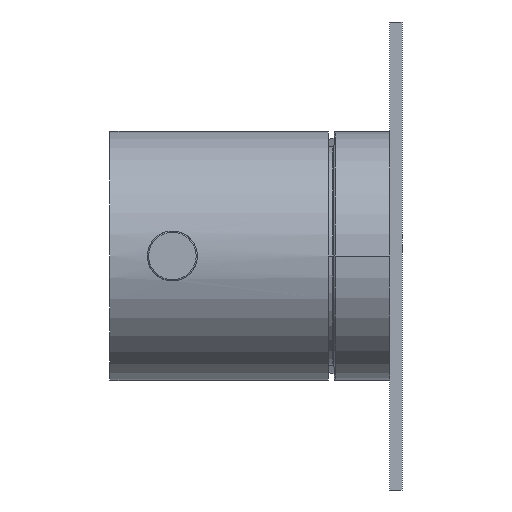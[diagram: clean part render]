
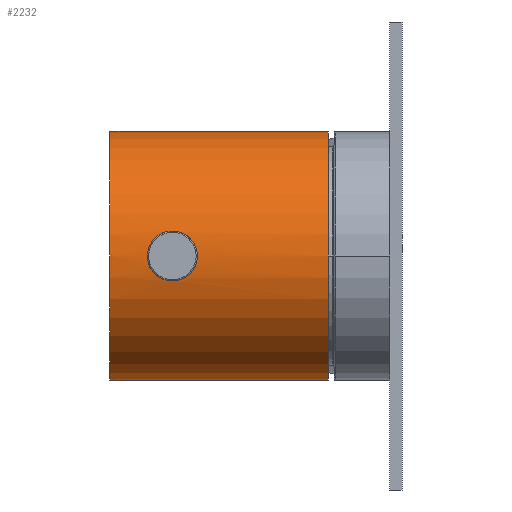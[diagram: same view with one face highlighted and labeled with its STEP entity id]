
A CAD part, left-side view. The second image highlights one B-rep face of the part: STEP entity #2232.
In plain terms, the highlighted cylindrical face has radius 20 mm (diameter 40 mm), a partial arc.
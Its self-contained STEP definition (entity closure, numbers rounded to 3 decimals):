
#1463=CARTESIAN_POINT('',(-129.93,28.433,1.674));
#1464=CARTESIAN_POINT('',(-129.921,28.386,1.776));
#1465=CARTESIAN_POINT('',(-129.903,28.282,1.978));
#1466=CARTESIAN_POINT('',(-129.872,28.101,2.268));
#1467=CARTESIAN_POINT('',(-129.839,27.895,2.541));
#1468=CARTESIAN_POINT('',(-129.804,27.667,2.797));
#1469=CARTESIAN_POINT('',(-129.769,27.418,3.031));
#1470=CARTESIAN_POINT('',(-129.736,27.149,3.244));
#1471=CARTESIAN_POINT('',(-129.704,26.864,3.432));
#1472=CARTESIAN_POINT('',(-129.674,26.565,3.595));
#1473=CARTESIAN_POINT('',(-129.649,26.253,3.732));
#1474=CARTESIAN_POINT('',(-129.628,25.933,3.841));
#1475=CARTESIAN_POINT('',(-129.612,25.605,3.923));
#1476=CARTESIAN_POINT('',(-129.601,25.272,3.977));
#1477=CARTESIAN_POINT('',(-129.595,24.936,4.002));
#1478=CARTESIAN_POINT('',(-129.596,24.6,4.));
#1479=CARTESIAN_POINT('',(-129.602,24.264,3.969));
#1480=CARTESIAN_POINT('',(-129.614,23.932,3.909));
#1481=CARTESIAN_POINT('',(-129.631,23.605,3.822));
#1482=CARTESIAN_POINT('',(-129.654,23.286,3.707));
#1483=CARTESIAN_POINT('',(-129.68,22.977,3.566));
#1484=CARTESIAN_POINT('',(-129.71,22.68,3.398));
#1485=CARTESIAN_POINT('',(-129.742,22.398,3.205));
#1486=CARTESIAN_POINT('',(-129.776,22.133,2.988));
#1487=CARTESIAN_POINT('',(-129.811,21.887,2.749));
#1488=CARTESIAN_POINT('',(-129.845,21.664,2.49));
#1489=CARTESIAN_POINT('',(-129.878,21.462,2.213));
#1490=CARTESIAN_POINT('',(-129.908,21.286,1.922));
#1491=CARTESIAN_POINT('',(-129.935,21.136,1.616));
#1492=CARTESIAN_POINT('',(-129.959,21.012,1.301));
#1493=CARTESIAN_POINT('',(-129.977,20.916,
0.975));
#1494=CARTESIAN_POINT('',(-129.991,20.847,
0.641));
#1495=CARTESIAN_POINT('',(-129.999,20.807,
0.304));
#1496=CARTESIAN_POINT('',(-130.001,20.795,
-0.033));
#1497=CARTESIAN_POINT('',(-129.998,20.812,
-0.369));
#1498=CARTESIAN_POINT('',(-129.989,20.858,
-0.705));
#1499=CARTESIAN_POINT('',(-129.974,20.932,
-1.037));
#1500=CARTESIAN_POINT('',(-129.954,21.034,
-1.362));
#1501=CARTESIAN_POINT('',(-129.938,21.12,
-1.571));
#1502=CARTESIAN_POINT('',(-129.93,21.167,
-1.674));
#1513=DIRECTION('',(0.,1.,0.));
#1514=VECTOR('',#1513,35.);
#1515=CARTESIAN_POINT('',(-110.,-0.2,-20.));
#1516=LINE('',#1515,#1514);
#1522=CARTESIAN_POINT('',(-110.,-0.2,0.));
#1523=DIRECTION('',(0.,1.,0.));
#1524=DIRECTION('',(0.,0.,-1.));
#1525=AXIS2_PLACEMENT_3D('',#1522,#1523,#1524);
#1527=DIRECTION('',(0.,1.,0.));
#1528=VECTOR('',#1527,35.);
#1529=CARTESIAN_POINT('',(-110.,-0.2,20.));
#1530=LINE('',#1529,#1528);
#1536=CARTESIAN_POINT('',(-110.,34.8,0.));
#1537=DIRECTION('',(0.,1.,0.));
#1538=DIRECTION('',(0.,0.,-1.));
#1539=AXIS2_PLACEMENT_3D('',#1536,#1537,#1538);
#2007=CARTESIAN_POINT('',(-129.93,21.167,
-1.674));
#2008=CARTESIAN_POINT('',(-129.921,21.214,
-1.776));
#2009=CARTESIAN_POINT('',(-129.903,21.318,
-1.978));
#2010=CARTESIAN_POINT('',(-129.872,21.499,
-2.268));
#2011=CARTESIAN_POINT('',(-129.839,21.705,
-2.541));
#2012=CARTESIAN_POINT('',(-129.804,21.933,
-2.797));
#2013=CARTESIAN_POINT('',(-129.769,22.182,
-3.031));
#2014=CARTESIAN_POINT('',(-129.736,22.451,
-3.244));
#2015=CARTESIAN_POINT('',(-129.704,22.736,
-3.432));
#2016=CARTESIAN_POINT('',(-129.674,23.035,
-3.595));
#2017=CARTESIAN_POINT('',(-129.649,23.347,
-3.732));
#2018=CARTESIAN_POINT('',(-129.628,23.667,
-3.841));
#2019=CARTESIAN_POINT('',(-129.612,23.995,
-3.923));
#2020=CARTESIAN_POINT('',(-129.601,24.328,
-3.977));
#2021=CARTESIAN_POINT('',(-129.595,24.664,
-4.002));
#2022=CARTESIAN_POINT('',(-129.596,25.,
-4.));
#2023=CARTESIAN_POINT('',(-129.602,25.336,
-3.969));
#2024=CARTESIAN_POINT('',(-129.614,25.668,
-3.909));
#2025=CARTESIAN_POINT('',(-129.631,25.995,
-3.822));
#2026=CARTESIAN_POINT('',(-129.654,26.314,
-3.707));
#2027=CARTESIAN_POINT('',(-129.68,26.623,
-3.566));
#2028=CARTESIAN_POINT('',(-129.71,26.92,
-3.398));
#2029=CARTESIAN_POINT('',(-129.742,27.202,
-3.205));
#2030=CARTESIAN_POINT('',(-129.776,27.467,
-2.988));
#2031=CARTESIAN_POINT('',(-129.811,27.712,
-2.749));
#2032=CARTESIAN_POINT('',(-129.845,27.936,
-2.49));
#2033=CARTESIAN_POINT('',(-129.878,28.138,
-2.213));
#2034=CARTESIAN_POINT('',(-129.908,28.314,
-1.922));
#2035=CARTESIAN_POINT('',(-129.935,28.464,
-1.616));
#2036=CARTESIAN_POINT('',(-129.959,28.588,
-1.301));
#2037=CARTESIAN_POINT('',(-129.977,28.684,
-0.975));
#2038=CARTESIAN_POINT('',(-129.991,28.753,
-0.641));
#2039=CARTESIAN_POINT('',(-129.999,28.793,
-0.304));
#2040=CARTESIAN_POINT('',(-130.001,28.805,
0.033));
#2041=CARTESIAN_POINT('',(-129.998,28.788,
0.369));
#2042=CARTESIAN_POINT('',(-129.989,28.742,
0.705));
#2043=CARTESIAN_POINT('',(-129.974,28.668,1.037));
#2044=CARTESIAN_POINT('',(-129.954,28.566,1.362));
#2045=CARTESIAN_POINT('',(-129.938,28.48,1.571));
#2046=CARTESIAN_POINT('',(-129.93,28.433,1.674));
#2073=CARTESIAN_POINT('',(-110.,-0.2,20.));
#2074=CARTESIAN_POINT('',(-110.,-0.2,-20.));
#2075=VERTEX_POINT('',#2073);
#2076=VERTEX_POINT('',#2074);
#2077=CARTESIAN_POINT('',(-110.,34.8,20.));
#2078=CARTESIAN_POINT('',(-110.,34.8,-20.));
#2079=VERTEX_POINT('',#2077);
#2080=VERTEX_POINT('',#2078);
#2151=VERTEX_POINT('',#1463);
#2152=VERTEX_POINT('',#1502);
#2212=CARTESIAN_POINT('',(-110.,-0.2,0.));
#2213=DIRECTION('',(0.,1.,0.));
#2214=DIRECTION('',(0.,0.,1.));
#2215=AXIS2_PLACEMENT_3D('',#2212,#2213,#2214);
#2216=CYLINDRICAL_SURFACE('',#2215,20.);
#2218=ORIENTED_EDGE('',*,*,#2217,.F.);
#2220=ORIENTED_EDGE('',*,*,#2219,.T.);
#2222=ORIENTED_EDGE('',*,*,#2221,.T.);
#2224=ORIENTED_EDGE('',*,*,#2223,.F.);
#2225=EDGE_LOOP('',(#2218,#2220,#2222,#2224));
#2226=FACE_OUTER_BOUND('',#2225,.F.);
#2227=ORIENTED_EDGE('',*,*,#2202,.F.);
#2229=ORIENTED_EDGE('',*,*,#2228,.F.);
#2230=EDGE_LOOP('',(#2227,#2229));
#2231=FACE_BOUND('',#2230,.F.);
#2232=ADVANCED_FACE('',(#2226,#2231),#2216,.T.);
#1503=B_SPLINE_CURVE_WITH_KNOTS('',3,(#1463,#1464,#1465,#1466,#1467,#1468,#1469,
#1470,#1471,#1472,#1473,#1474,#1475,#1476,#1477,#1478,#1479,#1480,#1481,#1482,
#1483,#1484,#1485,#1486,#1487,#1488,#1489,#1490,#1491,#1492,#1493,#1494,#1495,
#1496,#1497,#1498,#1499,#1500,#1501,#1502),.UNSPECIFIED.,.F.,.F.,(4,1,1,1,1,1,1,
1,1,1,1,1,1,1,1,1,1,1,1,1,1,1,1,1,1,1,1,1,1,1,1,1,1,1,1,1,1,4),(0.,
0.027,0.054,0.081,0.108,
0.135,0.162,0.189,0.216,
0.243,0.27,0.297,0.324,
0.351,0.378,0.405,0.432,
0.459,0.486,0.514,0.541,
0.568,0.595,0.622,0.649,
0.676,0.703,0.73,0.757,
0.784,0.811,0.838,0.865,
0.892,0.919,0.946,0.973,1.),
.UNSPECIFIED.);
#1526=CIRCLE('',#1525,20.);
#1540=CIRCLE('',#1539,20.);
#2047=B_SPLINE_CURVE_WITH_KNOTS('',3,(#2007,#2008,#2009,#2010,#2011,#2012,#2013,
#2014,#2015,#2016,#2017,#2018,#2019,#2020,#2021,#2022,#2023,#2024,#2025,#2026,
#2027,#2028,#2029,#2030,#2031,#2032,#2033,#2034,#2035,#2036,#2037,#2038,#2039,
#2040,#2041,#2042,#2043,#2044,#2045,#2046),.UNSPECIFIED.,.F.,.F.,(4,1,1,1,1,1,1,
1,1,1,1,1,1,1,1,1,1,1,1,1,1,1,1,1,1,1,1,1,1,1,1,1,1,1,1,1,1,4),(0.,
0.027,0.054,0.081,0.108,
0.135,0.162,0.189,0.216,
0.243,0.27,0.297,0.324,
0.351,0.378,0.405,0.432,
0.459,0.486,0.514,0.541,
0.568,0.595,0.622,0.649,
0.676,0.703,0.73,0.757,
0.784,0.811,0.838,0.865,
0.892,0.919,0.946,0.973,1.),
.UNSPECIFIED.);
#2202=EDGE_CURVE('',#2151,#2152,#1503,.T.);
#2217=EDGE_CURVE('',#2076,#2075,#1526,.T.);
#2219=EDGE_CURVE('',#2076,#2080,#1516,.T.);
#2221=EDGE_CURVE('',#2080,#2079,#1540,.T.);
#2223=EDGE_CURVE('',#2075,#2079,#1530,.T.);
#2228=EDGE_CURVE('',#2152,#2151,#2047,.T.);
